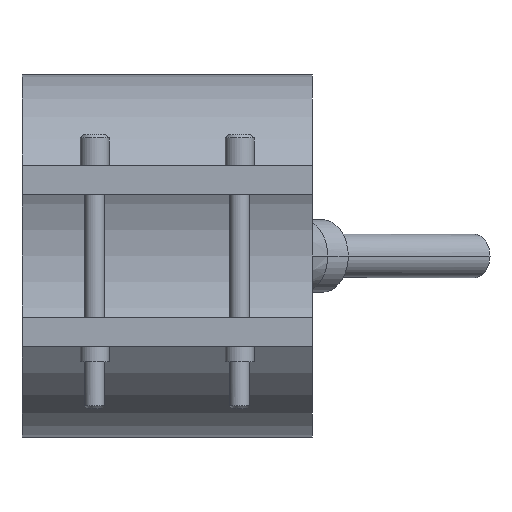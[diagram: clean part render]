
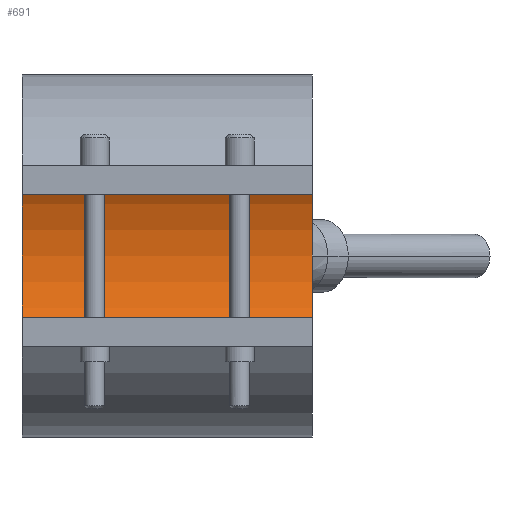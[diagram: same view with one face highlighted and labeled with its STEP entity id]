
A CAD part, front view. The second image highlights one B-rep face of the part: STEP entity #691.
In plain terms, the highlighted cylindrical face has radius 21 mm (diameter 42 mm), a partial arc.
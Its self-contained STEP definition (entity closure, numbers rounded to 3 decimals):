
#361=CARTESIAN_POINT('Vertex',(20.,0.,21.)) ;
#366=CARTESIAN_POINT('Axis2P3D Location',(20.,0.,0.)) ;
#370=CARTESIAN_POINT('Vertex',(20.,0.,-21.)) ;
#477=CARTESIAN_POINT('Vertex',(-20.,0.,-21.)) ;
#480=CARTESIAN_POINT('Axis2P3D Location',(-20.,0.,0.)) ;
#484=CARTESIAN_POINT('Vertex',(-20.,0.,21.)) ;
#663=CARTESIAN_POINT('Line Origine',(20.,0.,21.)) ;
#675=CARTESIAN_POINT('Axis2P3D Location',(20.,0.,0.)) ;
#680=CARTESIAN_POINT('Line Origine',(20.,0.,-21.)) ;
#367=DIRECTION('Axis2P3D Direction',(1.,0.,0.)) ;
#481=DIRECTION('Axis2P3D Direction',(1.,0.,0.)) ;
#664=DIRECTION('Vector Direction',(1.,0.,0.)) ;
#676=DIRECTION('Axis2P3D Direction',(1.,0.,-0.)) ;
#677=DIRECTION('Axis2P3D XDirection',(0.,0.,-1.)) ;
#681=DIRECTION('Vector Direction',(1.,0.,0.)) ;
#368=AXIS2_PLACEMENT_3D('Circle Axis2P3D',#366,#367,$) ;
#482=AXIS2_PLACEMENT_3D('Circle Axis2P3D',#480,#481,$) ;
#678=AXIS2_PLACEMENT_3D('Cylinder Axis2P3D',#675,#676,#677) ;
#686=ORIENTED_EDGE('',*,*,#372,.T.) ;
#687=ORIENTED_EDGE('',*,*,#667,.T.) ;
#688=ORIENTED_EDGE('',*,*,#486,.F.) ;
#689=ORIENTED_EDGE('',*,*,#684,.T.) ;
#665=VECTOR('Line Direction',#664,1.) ;
#682=VECTOR('Line Direction',#681,1.) ;
#691=ADVANCED_FACE('29042040',(#690),#679,.F.) ;
#369=CIRCLE('generated circle',#368,21.) ;
#483=CIRCLE('generated circle',#482,21.) ;
#679=CYLINDRICAL_SURFACE('generated cylinder',#678,21.) ;
#372=EDGE_CURVE('',#371,#362,#369,.T.) ;
#486=EDGE_CURVE('',#478,#485,#483,.T.) ;
#667=EDGE_CURVE('',#362,#485,#666,.F.) ;
#684=EDGE_CURVE('',#478,#371,#683,.T.) ;
#685=EDGE_LOOP('',(#686,#687,#688,#689)) ;
#690=FACE_OUTER_BOUND('',#685,.T.) ;
#666=LINE('Line',#663,#665) ;
#683=LINE('Line',#680,#682) ;
#362=VERTEX_POINT('',#361) ;
#371=VERTEX_POINT('',#370) ;
#478=VERTEX_POINT('',#477) ;
#485=VERTEX_POINT('',#484) ;
